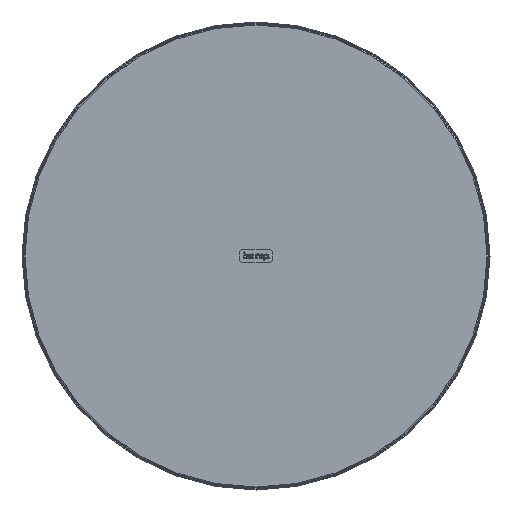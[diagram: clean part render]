
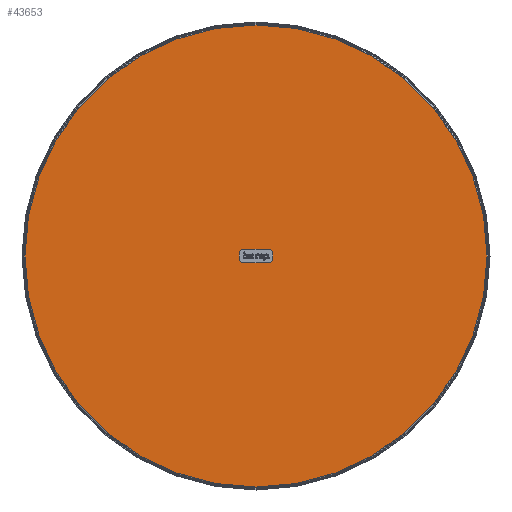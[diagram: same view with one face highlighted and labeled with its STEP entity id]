
A CAD part, front view. The second image highlights one B-rep face of the part: STEP entity #43653.
In plain terms, the highlighted planar face has unit normal (0, -1, 0).
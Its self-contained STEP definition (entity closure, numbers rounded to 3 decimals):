
#988 = B_SPLINE_CURVE_WITH_KNOTS ( 'NONE', 3,
 ( #76442, #182270, #212385, #147835 ),
 .UNSPECIFIED., .F., .F.,
 ( 4, 4 ),
 ( 0., 0.006 ),
 .UNSPECIFIED. ) ;
#3034 = VERTEX_POINT ( 'NONE', #159360 ) ;
#4908 = CARTESIAN_POINT ( 'NONE',  ( 14., -1.45, 2.032 ) ) ;
#5085 = DIRECTION ( 'NONE',  ( 0., 0., 1. ) ) ;
#8117 = CARTESIAN_POINT ( 'NONE',  ( -14., -1.45, 2.032 ) ) ;
#9869 = CARTESIAN_POINT ( 'NONE',  ( 10.19, -1.45, -5.842 ) ) ;
#10108 = B_SPLINE_CURVE_WITH_KNOTS ( 'NONE', 3,
 ( #9869, #145922, #164805, #97940 ),
 .UNSPECIFIED., .F., .F.,
 ( 4, 4 ),
 ( 0., 0.006 ),
 .UNSPECIFIED. ) ;
#10345 = CARTESIAN_POINT ( 'NONE',  ( -14., -1.45, 2.032 ) ) ;
#12639 = EDGE_CURVE ( 'NONE', #217929, #215331, #150042, .T. ) ;
#13267 = PLANE ( 'NONE',  #220171 ) ;
#16942 = CARTESIAN_POINT ( 'NONE',  ( 12.881, -1.45, 5.842 ) ) ;
#18719 = DIRECTION ( 'NONE',  ( 0., -1., 0. ) ) ;
#22101 = CARTESIAN_POINT ( 'NONE',  ( 12.286, -1.45, 5.842 ) ) ;
#24746 = VERTEX_POINT ( 'NONE', #152549 ) ;
#24789 = CARTESIAN_POINT ( 'NONE',  ( -14., -1.45, 4.127 ) ) ;
#28104 = CARTESIAN_POINT ( 'NONE',  ( -12.286, -1.45, 5.842 ) ) ;
#28308 = CARTESIAN_POINT ( 'NONE',  ( 0., -1.45, -194.45 ) ) ;
#30598 = VERTEX_POINT ( 'NONE', #10345 ) ;
#34288 = DIRECTION ( 'NONE',  ( 0., 0., -1. ) ) ;
#35648 = EDGE_CURVE ( 'NONE', #208764, #24746, #988, .T. ) ;
#35849 = LINE ( 'NONE', #16942, #35858 ) ;
#35858 = VECTOR ( 'NONE', #99478, 1000. ) ;
#43653 = ADVANCED_FACE ( 'NONE', ( #85647, #204865 ), #13267, .T. ) ;
#44335 = B_SPLINE_CURVE_WITH_KNOTS ( 'NONE', 3,
 ( #190420, #155961, #22101, #209336 ),
 .UNSPECIFIED., .F., .F.,
 ( 4, 4 ),
 ( 0., 0.006 ),
 .UNSPECIFIED. ) ;
#48970 = VERTEX_POINT ( 'NONE', #63724 ) ;
#50510 = ORIENTED_EDGE ( 'NONE', *, *, #125695, .T. ) ;
#51372 = LINE ( 'NONE', #185055, #161030 ) ;
#56564 = CARTESIAN_POINT ( 'NONE',  ( 0., -1.45, 0. ) ) ;
#59008 = ORIENTED_EDGE ( 'NONE', *, *, #180942, .F. ) ;
#59930 = VERTEX_POINT ( 'NONE', #196376 ) ;
#63021 = LINE ( 'NONE', #215731, #154016 ) ;
#63305 = VECTOR ( 'NONE', #5085, 1000. ) ;
#63724 = CARTESIAN_POINT ( 'NONE',  ( 10.19, -1.45, -5.842 ) ) ;
#69063 = EDGE_CURVE ( 'NONE', #59930, #3034, #35849, .T. ) ;
#69174 = CARTESIAN_POINT ( 'NONE',  ( 0., -1.45, 0. ) ) ;
#75530 = ORIENTED_EDGE ( 'NONE', *, *, #76453, .F. ) ;
#76442 = CARTESIAN_POINT ( 'NONE',  ( -14., -1.45, -2.032 ) ) ;
#76453 = EDGE_CURVE ( 'NONE', #180031, #138881, #105506, .T. ) ;
#81805 = ORIENTED_EDGE ( 'NONE', *, *, #12639, .T. ) ;
#85600 = DIRECTION ( 'NONE',  ( 0., -1., 0. ) ) ;
#85647 = FACE_BOUND ( 'NONE', #170006, .T. ) ;
#87388 = AXIS2_PLACEMENT_3D ( 'NONE', #69174, #93336, #170610 ) ;
#88367 = EDGE_CURVE ( 'NONE', #48970, #180031, #10108, .T. ) ;
#93230 = CARTESIAN_POINT ( 'NONE',  ( -14., -1.45, -2.032 ) ) ;
#93336 = DIRECTION ( 'NONE',  ( 0., -1., 0. ) ) ;
#93618 = B_SPLINE_CURVE_WITH_KNOTS ( 'NONE', 3,
 ( #160848, #28104, #24789, #8117 ),
 .UNSPECIFIED., .F., .F.,
 ( 4, 4 ),
 ( 0., 0.006 ),
 .UNSPECIFIED. ) ;
#96507 = CARTESIAN_POINT ( 'NONE',  ( 14., -1.45, -2.032 ) ) ;
#97940 = CARTESIAN_POINT ( 'NONE',  ( 14., -1.45, -2.032 ) ) ;
#99478 = DIRECTION ( 'NONE',  ( -1., 0., 0. ) ) ;
#101896 = ORIENTED_EDGE ( 'NONE', *, *, #35648, .F. ) ;
#102895 = ORIENTED_EDGE ( 'NONE', *, *, #122594, .F. ) ;
#105506 = LINE ( 'NONE', #176638, #63305 ) ;
#122594 = EDGE_CURVE ( 'NONE', #24746, #48970, #51372, .T. ) ;
#123823 = EDGE_LOOP ( 'NONE', ( #81805, #50510 ) ) ;
#124745 = CARTESIAN_POINT ( 'NONE',  ( 0., -1.45, 194.45 ) ) ;
#125695 = EDGE_CURVE ( 'NONE', #215331, #217929, #169252, .T. ) ;
#136142 = DIRECTION ( 'NONE',  ( 1., 0., 0. ) ) ;
#138881 = VERTEX_POINT ( 'NONE', #4908 ) ;
#145922 = CARTESIAN_POINT ( 'NONE',  ( 12.286, -1.45, -5.842 ) ) ;
#147835 = CARTESIAN_POINT ( 'NONE',  ( -10.19, -1.45, -5.842 ) ) ;
#150042 = CIRCLE ( 'NONE', #217575, 194.45 ) ;
#152549 = CARTESIAN_POINT ( 'NONE',  ( -10.19, -1.45, -5.842 ) ) ;
#154016 = VECTOR ( 'NONE', #177842, 1000. ) ;
#155961 = CARTESIAN_POINT ( 'NONE',  ( 14., -1.45, 4.127 ) ) ;
#156927 = CARTESIAN_POINT ( 'NONE',  ( 0., -1.45, 0. ) ) ;
#159360 = CARTESIAN_POINT ( 'NONE',  ( -10.19, -1.45, 5.842 ) ) ;
#159600 = EDGE_CURVE ( 'NONE', #138881, #59930, #44335, .T. ) ;
#159964 = ORIENTED_EDGE ( 'NONE', *, *, #159600, .F. ) ;
#160848 = CARTESIAN_POINT ( 'NONE',  ( -10.19, -1.45, 5.842 ) ) ;
#161030 = VECTOR ( 'NONE', #136142, 1000. ) ;
#161901 = ORIENTED_EDGE ( 'NONE', *, *, #88367, .F. ) ;
#164805 = CARTESIAN_POINT ( 'NONE',  ( 14., -1.45, -4.128 ) ) ;
#169252 = CIRCLE ( 'NONE', #87388, 194.45 ) ;
#170006 = EDGE_LOOP ( 'NONE', ( #199444, #59008, #193742, #159964, #75530, #161901, #102895, #101896 ) ) ;
#170610 = DIRECTION ( 'NONE',  ( 0., 0., -1. ) ) ;
#176638 = CARTESIAN_POINT ( 'NONE',  ( 14., -1.45, 4.723 ) ) ;
#177842 = DIRECTION ( 'NONE',  ( 0., 0., -1. ) ) ;
#180031 = VERTEX_POINT ( 'NONE', #96507 ) ;
#180942 = EDGE_CURVE ( 'NONE', #3034, #30598, #93618, .T. ) ;
#182270 = CARTESIAN_POINT ( 'NONE',  ( -14., -1.45, -4.128 ) ) ;
#185055 = CARTESIAN_POINT ( 'NONE',  ( 12.881, -1.45, -5.842 ) ) ;
#190323 = DIRECTION ( 'NONE',  ( 0., 0., -1. ) ) ;
#190420 = CARTESIAN_POINT ( 'NONE',  ( 14., -1.45, 2.032 ) ) ;
#193742 = ORIENTED_EDGE ( 'NONE', *, *, #69063, .F. ) ;
#196376 = CARTESIAN_POINT ( 'NONE',  ( 10.19, -1.45, 5.842 ) ) ;
#199444 = ORIENTED_EDGE ( 'NONE', *, *, #208747, .F. ) ;
#204865 = FACE_OUTER_BOUND ( 'NONE', #123823, .T. ) ;
#208747 = EDGE_CURVE ( 'NONE', #30598, #208764, #63021, .T. ) ;
#208764 = VERTEX_POINT ( 'NONE', #93230 ) ;
#209336 = CARTESIAN_POINT ( 'NONE',  ( 10.19, -1.45, 5.842 ) ) ;
#212385 = CARTESIAN_POINT ( 'NONE',  ( -12.286, -1.45, -5.842 ) ) ;
#215331 = VERTEX_POINT ( 'NONE', #124745 ) ;
#215731 = CARTESIAN_POINT ( 'NONE',  ( -14., -1.45, 4.723 ) ) ;
#217575 = AXIS2_PLACEMENT_3D ( 'NONE', #156927, #85600, #34288 ) ;
#217929 = VERTEX_POINT ( 'NONE', #28308 ) ;
#220171 = AXIS2_PLACEMENT_3D ( 'NONE', #56564, #18719, #190323 ) ;
